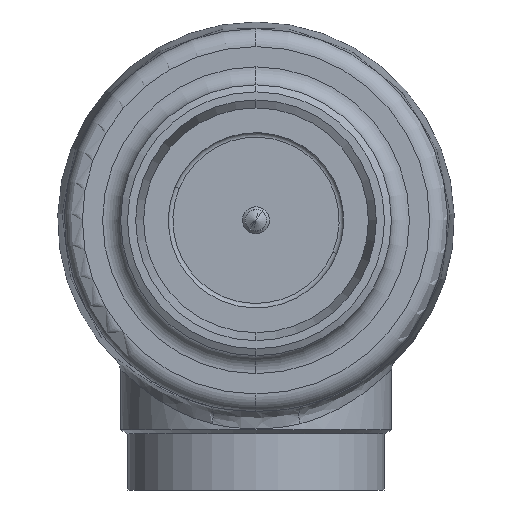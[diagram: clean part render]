
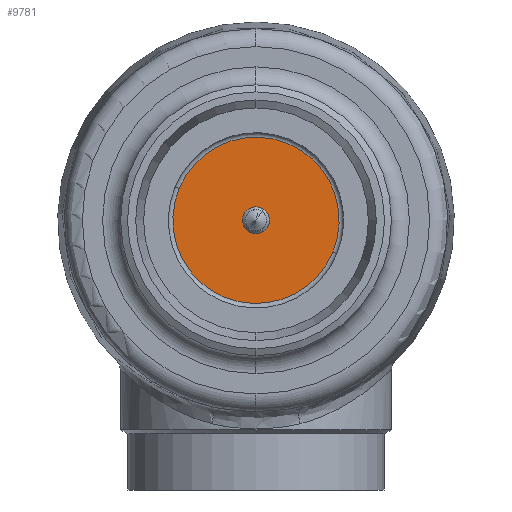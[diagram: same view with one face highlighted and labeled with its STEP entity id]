
A CAD part, front view. The second image highlights one B-rep face of the part: STEP entity #9781.
In plain terms, the highlighted planar face has unit normal (0, -1, 0).
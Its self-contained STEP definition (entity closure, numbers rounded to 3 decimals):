
#16404 = VERTEX_POINT ( 'NONE', #15652 ) ;
#940 = CARTESIAN_POINT ( 'NONE',  ( 0., 180.187, 4.383 ) ) ;
#1079 = CARTESIAN_POINT ( 'NONE',  ( 0., 180.187, -3.392 ) ) ;
#1163 = CIRCLE ( 'NONE', #1164, 3.888 ) ;
#1164 = AXIS2_PLACEMENT_3D ( 'NONE', #1165, #1172, #1173 ) ;
#1165 = CARTESIAN_POINT ( 'NONE',  ( 0., 180.187, 0.495 ) ) ;
#1172 = DIRECTION ( 'NONE',  ( 0., 1., 0. ) ) ;
#1173 = DIRECTION ( 'NONE',  ( -1., 0., 0. ) ) ;
#2190 = EDGE_LOOP ( 'NONE', ( #5935, #5082 ) ) ;
#2377 = ORIENTED_EDGE ( 'NONE', *, *, #4289, .T. ) ;
#3871 = VERTEX_POINT ( 'NONE', #940 ) ;
#4078 = VERTEX_POINT ( 'NONE', #1079 ) ;
#4289 = EDGE_CURVE ( 'NONE', #4078, #3871, #1163, .T. ) ;
#5082 = ORIENTED_EDGE ( 'NONE', *, *, #14340, .F. ) ;
#5576 = EDGE_CURVE ( 'NONE', #16404, #11731, #9174, .T. ) ;
#5935 = ORIENTED_EDGE ( 'NONE', *, *, #5576, .F. ) ;
#8817 = FACE_BOUND ( 'NONE', #9620, .T. ) ;
#8818 = FACE_OUTER_BOUND ( 'NONE', #2190, .T. ) ;
#8819 = PLANE ( 'NONE',  #8820 ) ;
#8820 = AXIS2_PLACEMENT_3D ( 'NONE', #8821, #8822, #8823 ) ;
#8821 = CARTESIAN_POINT ( 'NONE',  ( 37., 180.187, 0. ) ) ;
#8822 = DIRECTION ( 'NONE',  ( 0., 1., 0. ) ) ;
#8823 = DIRECTION ( 'NONE',  ( -1., 0., 0. ) ) ;
#8882 = CIRCLE ( 'NONE', #8883, 37. ) ;
#8883 = AXIS2_PLACEMENT_3D ( 'NONE', #8884, #8885, #8886 ) ;
#8884 = CARTESIAN_POINT ( 'NONE',  ( 0., 180.187, 0. ) ) ;
#8885 = DIRECTION ( 'NONE',  ( 0., 1., 0. ) ) ;
#8886 = DIRECTION ( 'NONE',  ( -1., 0., 0. ) ) ;
#9174 = CIRCLE ( 'NONE', #9175, 37. ) ;
#9175 = AXIS2_PLACEMENT_3D ( 'NONE', #9176, #9177, #9178 ) ;
#9176 = CARTESIAN_POINT ( 'NONE',  ( 0., 180.187, 0. ) ) ;
#9177 = DIRECTION ( 'NONE',  ( 0., 1., 0. ) ) ;
#9178 = DIRECTION ( 'NONE',  ( -1., 0., 0. ) ) ;
#9620 = EDGE_LOOP ( 'NONE', ( #11749, #2377 ) ) ;
#9781 = ADVANCED_FACE ( 'NONE', ( #8817, #8818 ), #8819, .F. ) ;
#11466 = EDGE_CURVE ( 'NONE', #3871, #4078, #15152, .T. ) ;
#11731 = VERTEX_POINT ( 'NONE', #15433 ) ;
#11749 = ORIENTED_EDGE ( 'NONE', *, *, #11466, .T. ) ;
#14340 = EDGE_CURVE ( 'NONE', #11731, #16404, #8882, .T. ) ;
#15152 = CIRCLE ( 'NONE', #15153, 3.888 ) ;
#15153 = AXIS2_PLACEMENT_3D ( 'NONE', #15154, #15155, #15156 ) ;
#15154 = CARTESIAN_POINT ( 'NONE',  ( 0., 180.187, 0.495 ) ) ;
#15155 = DIRECTION ( 'NONE',  ( 0., 1., 0. ) ) ;
#15156 = DIRECTION ( 'NONE',  ( -1., 0., 0. ) ) ;
#15433 = CARTESIAN_POINT ( 'NONE',  ( 37., 180.187, 0. ) ) ;
#15652 = CARTESIAN_POINT ( 'NONE',  ( -37., 180.187, 0. ) ) ;
